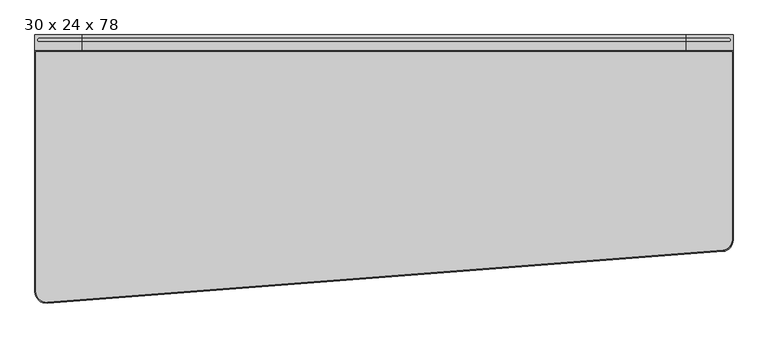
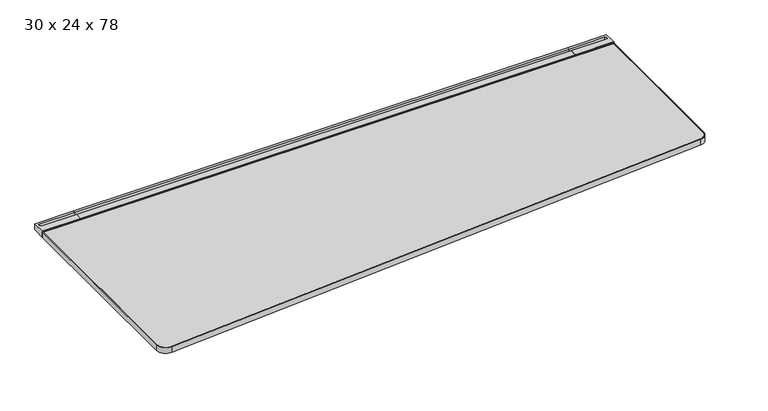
"""IFC4 building model written with IfcOpenShell, lengths in millimetres: furniture geometry, Steelcase - C Scape - Desking - Left Hand Tapered : 30 x 24 x 78."""

import ifcopenshell
import ifcopenshell.guid

model = None  # the IFC model being written
_history = None  # IfcOwnerHistory: only IFC2X3 demands one
_inside = {}  # id of a spatial element -> (the spatial element, [elements in it])
_under = {}  # id of a project, library or spatial element -> (it, [spatial elements below it])
_declared = {}  # id of a project -> (the project, [libraries it declares])
_typed = {}  # id of a type object -> (the type object, [elements of that type])
_made_of = {}  # id of a material, layer set ... -> (it, [elements and type objects made of it])


def new_model(schema):
    """Start an empty IFC model of exactly this schema.

    Asked for "IFC4X3", IfcOpenShell would pick the latest addendum, in which some entities
    have other attributes; the version numbers below select the first issue.
    IFC2X3 requires an IfcOwnerHistory on every rooted entity: one is made here for all.
    """
    global model, _history
    if schema == "IFC4X3":
        model = ifcopenshell.file(schema_version=(4, 3, 0, 0))
    else:
        model = ifcopenshell.file(schema=schema)
    _inside.clear()
    _under.clear()
    _declared.clear()
    _typed.clear()
    _made_of.clear()
    _history = None
    if model.schema == "IFC2X3":
        org = make("IfcOrganization", Name="unknown")
        user = make(
            "IfcPersonAndOrganization",
            ThePerson=make("IfcPerson", FamilyName="unknown"),
            TheOrganization=org,
        )
        app = make(
            "IfcApplication",
            ApplicationDeveloper=org,
            Version="unknown",
            ApplicationFullName="unknown",
            ApplicationIdentifier="unknown",
        )
        _history = make(
            "IfcOwnerHistory",
            OwningUser=user,
            OwningApplication=app,
            ChangeAction="ADDED",
            CreationDate=0,
        )
    return model


def make(cls, **values):
    """One entity of the class cls with the attributes given. An attribute that is None is left unset."""
    return model.create_entity(
        cls, **{name: value for name, value in values.items() if value is not None}
    )


def rooted(cls, **values):
    """An entity with a GlobalId (a new one), such as an element, a storey or a relation."""
    return make(cls, GlobalId=ifcopenshell.guid.new(), OwnerHistory=_history, **values)


def si_unit(unit_type, name, prefix=None):
    """IfcSIUnit, for example si_unit("LENGTHUNIT", "METRE", prefix="MILLI")."""
    return make("IfcSIUnit", UnitType=unit_type, Prefix=prefix, Name=name)


def assignment(units):
    """IfcUnitAssignment: the units of a project."""
    return None if units is None else make("IfcUnitAssignment", Units=units)


def point(xyz):
    """IfcCartesianPoint."""
    return None if xyz is None else make("IfcCartesianPoint", Coordinates=xyz)


def direction(xyz):
    """IfcDirection."""
    return None if xyz is None else make("IfcDirection", DirectionRatios=xyz)


def frame(location, z_axis=None, x_axis=None):
    """IfcAxis2Placement3D, a coordinate frame: its origin and axes. An axis left out is left unset."""
    return make(
        "IfcAxis2Placement3D",
        Location=point(location),
        Axis=direction(z_axis),
        RefDirection=direction(x_axis),
    )


def frame_2d(location, x_axis=None):
    """IfcAxis2Placement2D, a coordinate frame in the plane: its origin and x axis."""
    return make(
        "IfcAxis2Placement2D", Location=point(location), RefDirection=direction(x_axis)
    )


def origin():
    """The frame at (0, 0, 0) with its axes left unset."""
    return frame((0.0, 0.0, 0.0))


def place(relative_to, where):
    """IfcLocalPlacement: puts the frame where relative to a parent placement (None: the world)."""
    return make(
        "IfcLocalPlacement", PlacementRelTo=relative_to, RelativePlacement=where
    )


def context(
    kind, dimensions, precision=None, world=None, true_north=None, identifier=None
):
    """IfcGeometricRepresentationContext, for example the 3D "Model" context."""
    return make(
        "IfcGeometricRepresentationContext",
        ContextIdentifier=identifier,
        ContextType=kind,
        CoordinateSpaceDimension=dimensions,
        Precision=precision,
        WorldCoordinateSystem=world,
        TrueNorth=true_north,
    )


def project(units=None, contexts=None):
    """IfcProject with its units and contexts."""
    return rooted(
        "IfcProject",
        Name="project",
        RepresentationContexts=contexts,
        UnitsInContext=assignment(units),
    )


def spatial(cls, under=None, at=None, **own):
    """A site, building, storey or space (cls), placed at a placement, below another one or the project."""
    s = rooted(cls, ObjectPlacement=at, **own)
    if under is not None:
        _under.setdefault(under.id(), (under, []))[1].append(s)
    return s


def polyline(points):
    """IfcPolyline through the points."""
    return make("IfcPolyline", Points=[point(p) for p in points])


def circle_curve(where, radius):
    """IfcCircle in the frame where."""
    return make("IfcCircle", Position=where, Radius=radius)


def trimmed(basis, trim1, trim2, sense, master):
    """IfcTrimmedCurve: the piece of a basis curve between two trims."""
    return make(
        "IfcTrimmedCurve",
        BasisCurve=basis,
        Trim1=trim1,
        Trim2=trim2,
        SenseAgreement=sense,
        MasterRepresentation=master,
    )


def segment(curve, same_sense, transition):
    """IfcCompositeCurveSegment."""
    return make(
        "IfcCompositeCurveSegment",
        Transition=transition,
        SameSense=same_sense,
        ParentCurve=curve,
    )


def composite_curve(segments, self_intersect=None):
    """IfcCompositeCurve: segments joined end to end."""
    return make("IfcCompositeCurve", Segments=segments, SelfIntersect=self_intersect)


def outline(outer, holes=None, kind="AREA"):
    """IfcArbitraryClosedProfileDef: a profile drawn as a closed curve; with holes, ...WithVoids."""
    if holes is None:
        return make("IfcArbitraryClosedProfileDef", ProfileType=kind, OuterCurve=outer)
    return make(
        "IfcArbitraryProfileDefWithVoids",
        ProfileType=kind,
        OuterCurve=outer,
        InnerCurves=holes,
    )


def extrude(swept, where, along, depth):
    """IfcExtrudedAreaSolid: the profile swept, set in the frame where, extruded along a direction by depth."""
    return make(
        "IfcExtrudedAreaSolid",
        SweptArea=swept,
        Position=where,
        ExtrudedDirection=direction(along),
        Depth=depth,
    )


def faces_of(points, faces, orient=None, outer=None):
    """IfcFace entities. A face is a list of loops; a loop is a list of indices into points, from 0.

    orient and outer hold one flag for each loop. By default every Orientation is true, the
    first loop of a face is its IfcFaceOuterBound and the others are IfcFaceBound.
    """
    made = []
    for i, loops in enumerate(faces):
        bounds = []
        for j, loop in enumerate(loops):
            is_outer = j == 0 if outer is None else outer[i][j]
            bounds.append(
                make(
                    "IfcFaceOuterBound" if is_outer else "IfcFaceBound",
                    Bound=make("IfcPolyLoop", Polygon=[points[k] for k in loop]),
                    Orientation=True if orient is None else orient[i][j],
                )
            )
        made.append(make("IfcFace", Bounds=bounds))
    return made


def faceted_brep(points, faces, orient=None, outer=None, voids=None):
    """IfcFacetedBrep: a solid bounded by flat faces; with voids (closed shells), ...WithVoids."""
    shared = [point(p) for p in points]
    hull = make("IfcClosedShell", CfsFaces=faces_of(shared, faces, orient, outer))
    if voids is None:
        return make("IfcFacetedBrep", Outer=hull)
    return make(
        "IfcFacetedBrepWithVoids",
        Outer=hull,
        Voids=[
            make(cls, CfsFaces=faces_of(shared, fs, o, b)) for cls, fs, o, b in voids
        ],
    )


def shape(context_of_items, identifier, shape_type, items):
    """IfcShapeRepresentation: the items that make up one representation, for example the "Body"."""
    return make(
        "IfcShapeRepresentation",
        ContextOfItems=context_of_items,
        RepresentationIdentifier=identifier,
        RepresentationType=shape_type,
        Items=items,
    )


def source(mapping_origin, context_of_items, identifier, shape_type, items):
    """IfcRepresentationMap: a shape defined once, which mapped items show again and again."""
    return make(
        "IfcRepresentationMap",
        MappingOrigin=mapping_origin,
        MappedRepresentation=shape(context_of_items, identifier, shape_type, items),
    )


def transform(
    local_origin,
    x_axis=None,
    y_axis=None,
    z_axis=None,
    scale=None,
    scale2=None,
    scale3=None,
    uniform=True,
):
    """IfcCartesianTransformationOperator3D, or its non-uniform kind. x_axis, y_axis, z_axis: its Axis1, 2, 3."""
    if uniform:
        return make(
            "IfcCartesianTransformationOperator3D",
            Axis1=direction(x_axis),
            Axis2=direction(y_axis),
            LocalOrigin=point(local_origin),
            Scale=scale,
            Axis3=direction(z_axis),
        )
    return make(
        "IfcCartesianTransformationOperator3DnonUniform",
        Axis1=direction(x_axis),
        Axis2=direction(y_axis),
        LocalOrigin=point(local_origin),
        Scale=scale,
        Axis3=direction(z_axis),
        Scale2=scale2,
        Scale3=scale3,
    )


def mapped(mapping_source, mapping_target):
    """IfcMappedItem: shows the shape of a source again, moved by a transform."""
    return make(
        "IfcMappedItem", MappingSource=mapping_source, MappingTarget=mapping_target
    )


def made_of(thing, what):
    """Note that an element or type object is made of a material, layer set ...; save() writes the relation."""
    if what is not None:
        _made_of.setdefault(what.id(), (what, []))[1].append(thing)
    return thing


def element(
    cls,
    number,
    at=None,
    inside=None,
    cuts=None,
    type_object=None,
    material=None,
    context=None,
    identifier="Body",
    shape_type=None,
    held_by="IfcProductDefinitionShape",
    body=None,
    shapes=None,
    **own,
):
    """One element of the class cls, such as IfcWall. Its Tag is "e" and its number.

    at: its placement. inside: the storey or other place that contains it. cuts: it is an
    opening in that element (IfcRelVoidsElement). A single representation is given by context,
    identifier, shape_type and body (its items); several are given by shapes. held_by: the class
    of the entity that holds the representations. save() writes the other relations.
    """
    e = rooted(cls, Tag="e%d" % number, ObjectPlacement=at, **own)
    if body is not None:
        shapes = [shape(context, identifier, shape_type, body)]
    if shapes is not None:
        e.Representation = make(held_by, Representations=shapes)
    if inside is not None:
        _inside.setdefault(inside.id(), (inside, []))[1].append(e)
    if cuts is not None:
        rooted(
            "IfcRelVoidsElement", RelatingBuildingElement=cuts, RelatedOpeningElement=e
        )
    if type_object is not None:
        _typed.setdefault(type_object.id(), (type_object, []))[1].append(e)
    return made_of(e, material)


def aggregate(whole, parts):
    """IfcRelAggregates: a whole, such as a stair, and the parts it consists of."""
    return rooted("IfcRelAggregates", RelatingObject=whole, RelatedObjects=parts)


def save(model, path):
    """Write the relations noted so far, then the file.

    IfcRelAggregates (storeys below a building ...), IfcRelContainedInSpatialStructure (elements
    in a storey), IfcRelDefinesByType, IfcRelAssociatesMaterial and IfcRelDeclares: one each for
    every whole, place, type object, material and project.
    """
    for whole, parts in _under.values():
        aggregate(whole, parts)
    for where, things in _inside.values():
        rooted(
            "IfcRelContainedInSpatialStructure",
            RelatedElements=things,
            RelatingStructure=where,
        )
    for kind, things in _typed.values():
        rooted("IfcRelDefinesByType", RelatedObjects=things, RelatingType=kind)
    for what, things in _made_of.values():
        rooted("IfcRelAssociatesMaterial", RelatedObjects=things, RelatingMaterial=what)
    for by, libraries in _declared.values():
        rooted("IfcRelDeclares", RelatingContext=by, RelatedDefinitions=libraries)
    model.write(path)


def plane_surface(at):
    """IfcPlane: the flat surface through the origin of the frame at, square to its z axis."""
    return make("IfcPlane", Position=at)


def cylinder_surface(at, radius):
    """IfcCylindricalSurface: all points at the distance radius from the z axis of the frame at."""
    return make("IfcCylindricalSurface", Position=at, Radius=radius)


def revolved_surface(curve, axis_point, axis_direction):
    """IfcSurfaceOfRevolution: the curve turned about the line through axis_point along axis_direction."""
    return make(
        "IfcSurfaceOfRevolution",
        SweptCurve=make("IfcArbitraryOpenProfileDef", ProfileType="CURVE", Curve=curve),
        AxisPosition=make("IfcAxis1Placement", Location=point(axis_point), Axis=direction(axis_direction)),
    )


def advanced_brep(points, edges, surfaces, faces):
    """IfcAdvancedBrep: a solid bounded by faces that lie on surfaces and meet in shared edges.

    An edge is (start, end): straight between two places in points (the first is 0);
    or (start, end, curve); or (start, end, curve, False) where it runs against its curve.
    A face is (place in surfaces, loops), or (place, loops, False) where it looks against
    its surface's normal. A loop lists edges by number (the first is 1), with a minus sign
    where the edge is run from its end to its start. The first loop is the outer one.
    """
    corners = [point(p) for p in points]
    vertices = [make("IfcVertexPoint", VertexGeometry=c) for c in corners]
    made = []
    for start, end, *more in edges:
        made.append(
            make(
                "IfcEdgeCurve",
                EdgeStart=vertices[start],
                EdgeEnd=vertices[end],
                EdgeGeometry=more[0] if more else make("IfcPolyline", Points=[corners[start], corners[end]]),
                SameSense=more[1] if len(more) > 1 else True,
            )
        )
    hull = []
    for where, loops, *sense in faces:
        bounds = []
        for j, loop in enumerate(loops):
            ring = [make("IfcOrientedEdge", EdgeElement=made[abs(k) - 1], Orientation=k > 0) for k in loop]
            bounds.append(
                make(
                    "IfcFaceOuterBound" if j == 0 else "IfcFaceBound",
                    Bound=make("IfcEdgeLoop", EdgeList=ring),
                    Orientation=True,
                )
            )
        hull.append(make("IfcAdvancedFace", Bounds=bounds, FaceSurface=surfaces[where], SameSense=sense[0] if sense else True))
    return make("IfcAdvancedBrep", Outer=make("IfcClosedShell", CfsFaces=hull))


def furniture_30_x_24_x_78_2d4ab718(model_context):
    return source(origin(), model_context, "Body", "SolidModel", [
        advanced_brep(
        [(134.6072876, -45.3135132, 703.3768), (134.6072876, -4.0331902, 703.3768), (134.6072876, -3.2278472, 705.1038636), (134.6072876, 0.0, 705.1038636), (134.6072876, 0.0, 725.932), (134.6072876, -8.5111084, 725.932), (134.6072876, -8.5111084, 713.486), (134.6072876, -19.3290527, 713.486), (134.6072876, -19.3290527, 725.932), (134.6072876, -42.7750923, 725.932), (134.6072876, -42.7750923, 722.4268341), (134.6072876, -45.3135132, 722.4268341), (1.5875, -45.3135132, 703.3768), (1.5875, -45.3135132, 722.4268341), (1.5875, -42.7750923, 722.4268341), (1.5875, -42.7750923, 725.932), (1.5875, 0.0, 725.932), (1.5875, 0.0, 705.1038636), (1.5875, -3.2278472, 705.1038636), (1.5875, -4.0331902, 703.3768), (13.3495728, -19.3290527, 725.932), (13.3495728, -8.5111084, 725.932), (13.3495728, -8.5111084, 713.486), (13.3495728, -19.3290527, 713.486)],
        [
            (0, 1),
            (1, 2),
            (2, 3),
            (3, 4),
            (4, 5),
            (5, 6),
            (6, 7),
            (7, 8),
            (8, 9),
            (9, 10),
            (10, 11),
            (11, 0),
            (12, 13),
            (13, 14),
            (14, 15),
            (15, 16),
            (16, 17),
            (17, 18),
            (18, 19),
            (19, 12),
            (0, 12),
            (19, 1),
            (18, 2),
            (17, 3),
            (16, 4),
            (15, 9),
            (8, 20),
            (20, 21, circle_curve(frame((13.3495728, -13.9200806, 725.932), z_axis=(0.0, 0.0, -1.0), x_axis=(1.0, 0.0, 0.0)), 5.4089722)),
            (21, 5),
            (14, 10),
            (13, 11),
            (6, 22),
            (22, 23, circle_curve(frame((13.3495728, -13.9200806, 713.486), z_axis=(0.0, 0.0, 1.0), x_axis=(1.0, 0.0, 0.0)), 5.4089722)),
            (23, 7),
            (21, 22),
            (20, 23),
        ],
        [
            plane_surface(frame((134.6072876, -45.3135132, 703.3768), z_axis=(1.0, 0.0, 0.0), x_axis=(0.0, 1.0, 0.0))),
            plane_surface(frame((1.5875, -45.3135132, 703.3768), z_axis=(-1.0, 0.0, 0.0), x_axis=(0.0, -1.0, 0.0))),
            plane_surface(frame((134.6072876, -45.3135132, 703.3768), z_axis=(0.0, 0.0, -1.0), x_axis=(-1.0, 0.0, 0.0))),
            plane_surface(frame((134.6072876, -4.0331902, 703.3768), z_axis=(0.0, 0.9063077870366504, -0.4226182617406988), x_axis=(-1.0, 0.0, 0.0))),
            plane_surface(frame((134.6072876, -3.2278472, 705.1038636), z_axis=(0.0, 0.0, -1.0), x_axis=(-1.0, 0.0, 0.0))),
            plane_surface(frame((134.6072876, 0.0, 705.1038636), z_axis=(0.0, 1.0, 0.0), x_axis=(-1.0, 0.0, 0.0))),
            plane_surface(frame((134.6072876, 0.0, 725.932), z_axis=(0.0, 0.0, 1.0), x_axis=(-1.0, 0.0, 0.0))),
            plane_surface(frame((134.6072876, -42.7750923, 725.932), z_axis=(0.0, -1.0, 0.0), x_axis=(-1.0, 0.0, 0.0))),
            plane_surface(frame((134.6072876, -42.7750923, 722.4268341), z_axis=(0.0, 0.0, 1.0), x_axis=(-1.0, 0.0, 0.0))),
            plane_surface(frame((134.6072876, -45.3135132, 722.4268341), z_axis=(0.0, -1.0, 0.0), x_axis=(-1.0, 0.0, 0.0))),
            plane_surface(frame((13.3495728, -8.5111084, 713.486), z_axis=(0.0, 0.0, 1.0), x_axis=(1.0, 0.0, 0.0))),
            plane_surface(frame((134.6072876, -8.5111084, 731.2180541), z_axis=(0.0, -1.0, 0.0), x_axis=(0.0, 0.0, -1.0))),
            revolved_surface(polyline([(18.758545, -13.9200806, 725.932), (18.758545, -13.9200806, 713.486)]), (13.3495728, -13.9200806, 713.486), (0.0, 0.0, 1.0)),
            plane_surface(frame((13.3495728, -19.3290527, 731.2180541), z_axis=(0.0, 1.0, 0.0), x_axis=(0.0, 0.0, -1.0))),
        ],
        [
            (0, [[1, 2, 3, 4, 5, 6, 7, 8, 9, 10, 11, 12]]),
            (1, [[13, 14, 15, 16, 17, 18, 19, 20]]),
            (2, [[-1, 21, -20, 22]]),
            (3, [[-2, -22, -19, 23]]),
            (4, [[-3, -23, -18, 24]]),
            (5, [[-4, -24, -17, 25]]),
            (6, [[-16, 26, -9, 27, 28, 29, -5, -25]]),
            (7, [[-10, -26, -15, 30]]),
            (8, [[-11, -30, -14, 31]]),
            (9, [[-12, -31, -13, -21]]),
            (10, [[32, 33, 34, -7]]),
            (11, [[-32, -6, -29, 35]]),
            (12, [[-33, -35, -28, 36]]),
            (13, [[-34, -36, -27, -8]]),
        ],
    ),
        faceted_brep([(20.6382632, -565.0752923, 700.7093833), (34.9133728, -565.0752923, 693.4200291), (116.3525879, -565.0752923, 693.4200291), (118.9731301, -565.0752923, 679.3263935), (134.6072876, -565.0752923, 679.3263935), (134.6072876, -565.0752923, 703.3768), (20.6382632, -565.0752923, 703.3768), (20.6382632, -4.0331902, 700.7093833), (20.6382632, -4.0331902, 703.3768), (134.6072876, -4.0331902, 703.3768), (134.6072876, -4.0331902, 629.3866), (128.2588347, -4.0331902, 629.3866), (116.3525879, -4.0331902, 693.4200291), (34.9133728, -4.0331902, 693.4200291), (128.2588347, -364.1172546, 629.3866), (121.1384051, -376.5599397, 667.6812472), (134.6072876, -364.1172546, 629.3866), (134.6072876, -376.5599397, 667.6812472)], [[[0, 1, 2, 3, 4, 5, 6]], [[7, 8, 9, 10, 11, 12, 13]], [[1, 0, 7, 13]], [[2, 1, 13, 12]], [[12, 11, 14, 15, 3, 2]], [[11, 10, 16, 14]], [[10, 9, 5, 4, 17, 16]], [[6, 5, 9, 8]], [[0, 6, 8, 7]], [[15, 17, 4, 3]], [[17, 15, 14, 16]]]),
        extrude(outline(composite_curve([segment(polyline([(-293.5216187, 657.3775839), (-559.0022133, 680.1371551)]), True, "CONTINUOUS"), segment(trimmed(circle_curve(frame_2d((-558.7581271, 682.9843154)), 2.8576039), [point((-559.0022133, 680.1371551))], [point((-561.5383043, 682.3236226))], False, "CARTESIAN"), True, "CONTINUOUS"), segment(polyline([(-561.5383043, 682.3236226), (-566.0887542, 701.4717905), (-557.8334441, 701.4717905), (-557.8334441, 703.3768), (-442.6683806, 703.3768), (-442.6683806, 696.3917953), (-318.2108611, 696.3917953), (-318.2108611, 703.3768), (-293.5216187, 703.3768), (-293.5216187, 657.3775839)]), True, "CONTINUOUS")], self_intersect=False)), frame((954.024, 0.0, 0.0), z_axis=(1.0, 0.0, 0.0), x_axis=(0.0, 1.0, 0.0)), (0.0, 0.0, 1.0), 73.152),
        advanced_brep(
        [(1846.5927124, -45.3135132, 703.3768), (1846.5927124, -45.3135132, 722.4268341), (1846.5927124, -42.7750923, 722.4268341), (1846.5927124, -42.7750923, 725.932), (1846.5927124, -19.3290527, 725.932), (1846.5927124, -19.3290527, 713.486), (1846.5927124, -8.5111084, 713.486), (1846.5927124, -8.5111084, 725.932), (1846.5927124, 0.0, 725.932), (1846.5927124, 0.0, 705.1038636), (1846.5927124, -3.2278472, 705.1038636), (1846.5927124, -4.0331902, 703.3768), (1979.6125, -45.3135132, 703.3768), (1979.6125, -4.0331902, 703.3768), (1979.6125, -3.2278472, 705.1038636), (1979.6125, 0.0, 705.1038636), (1979.6125, 0.0, 725.932), (1979.6125, -42.7750923, 725.932), (1979.6125, -42.7750923, 722.4268341), (1979.6125, -45.3135132, 722.4268341), (1967.8504272, -8.5111084, 725.932), (1967.8504272, -19.3290527, 725.932), (1967.8504272, -19.3290527, 713.486), (1967.8504272, -8.5111084, 713.486)],
        [
            (0, 1),
            (1, 2),
            (2, 3),
            (3, 4),
            (4, 5),
            (5, 6),
            (6, 7),
            (7, 8),
            (8, 9),
            (9, 10),
            (10, 11),
            (11, 0),
            (12, 13),
            (13, 14),
            (14, 15),
            (15, 16),
            (16, 17),
            (17, 18),
            (18, 19),
            (19, 12),
            (11, 13),
            (12, 0),
            (10, 14),
            (9, 15),
            (8, 16),
            (7, 20),
            (20, 21, circle_curve(frame((1967.8504272, -13.9200806, 725.932), z_axis=(0.0, 0.0, -1.0), x_axis=(-1.0, 0.0, 0.0)), 5.4089722)),
            (21, 4),
            (3, 17),
            (2, 18),
            (1, 19),
            (5, 22),
            (22, 23, circle_curve(frame((1967.8504272, -13.9200806, 713.486), z_axis=(0.0, 0.0, 1.0), x_axis=(-1.0, 0.0, 0.0)), 5.4089722)),
            (23, 6),
            (23, 20),
            (22, 21),
        ],
        [
            plane_surface(frame((1846.5927124, -45.3135132, 703.3768), z_axis=(-1.0, 0.0, 0.0), x_axis=(0.0, 1.0, 0.0))),
            plane_surface(frame((1979.6125, -45.3135132, 703.3768), z_axis=(1.0, 0.0, 0.0), x_axis=(0.0, -1.0, 0.0))),
            plane_surface(frame((1846.5927124, -45.3135132, 703.3768), z_axis=(0.0, 0.0, -1.0), x_axis=(1.0, 0.0, 0.0))),
            plane_surface(frame((1846.5927124, -4.0331902, 703.3768), z_axis=(0.0, 0.9063077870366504, -0.4226182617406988), x_axis=(1.0, 0.0, 0.0))),
            plane_surface(frame((1846.5927124, -3.2278472, 705.1038636), z_axis=(0.0, 0.0, -1.0), x_axis=(1.0, 0.0, 0.0))),
            plane_surface(frame((1846.5927124, 0.0, 705.1038636), z_axis=(0.0, 1.0, 0.0), x_axis=(1.0, 0.0, 0.0))),
            plane_surface(frame((1846.5927124, 0.0, 725.932), z_axis=(0.0, 0.0, 1.0), x_axis=(1.0, 0.0, 0.0))),
            plane_surface(frame((1846.5927124, -42.7750923, 725.932), z_axis=(0.0, -1.0, 0.0), x_axis=(1.0, 0.0, 0.0))),
            plane_surface(frame((1846.5927124, -42.7750923, 722.4268341), z_axis=(0.0, 0.0, 1.0), x_axis=(1.0, 0.0, 0.0))),
            plane_surface(frame((1846.5927124, -45.3135132, 722.4268341), z_axis=(0.0, -1.0, 0.0), x_axis=(1.0, 0.0, 0.0))),
            plane_surface(frame((1967.8504272, -8.5111084, 713.486), z_axis=(0.0, 0.0, 1.0), x_axis=(-1.0, 0.0, 0.0))),
            plane_surface(frame((1846.5927124, -8.5111084, 731.2180541), z_axis=(0.0, -1.0, 0.0), x_axis=(0.0, 0.0, -1.0))),
            revolved_surface(polyline([(1962.441455, -13.9200806, 725.932), (1962.441455, -13.9200806, 713.486)]), (1967.8504272, -13.9200806, 713.486), (0.0, 0.0, 1.0)),
            plane_surface(frame((1967.8504272, -19.3290527, 731.2180541), z_axis=(0.0, 1.0, 0.0), x_axis=(0.0, 0.0, -1.0))),
        ],
        [
            (0, [[1, 2, 3, 4, 5, 6, 7, 8, 9, 10, 11, 12]]),
            (1, [[13, 14, 15, 16, 17, 18, 19, 20]]),
            (2, [[21, -13, 22, -12]]),
            (3, [[23, -14, -21, -11]]),
            (4, [[24, -15, -23, -10]]),
            (5, [[25, -16, -24, -9]]),
            (6, [[-25, -8, 26, 27, 28, -4, 29, -17]]),
            (7, [[30, -18, -29, -3]]),
            (8, [[31, -19, -30, -2]]),
            (9, [[-22, -20, -31, -1]]),
            (10, [[-6, 32, 33, 34]]),
            (11, [[35, -26, -7, -34]]),
            (12, [[36, -27, -35, -33]]),
            (13, [[-5, -28, -36, -32]]),
        ],
    ),
        faceted_brep([(1960.5617368, -565.0752923, 700.7093833), (1960.5617368, -565.0752923, 703.3768), (1846.5927124, -565.0752923, 703.3768), (1846.5927124, -565.0752923, 679.3263935), (1862.2268699, -565.0752923, 679.3263935), (1864.8474121, -565.0752923, 693.4200291), (1946.2866272, -565.0752923, 693.4200291), (1960.5617368, -4.0331902, 700.7093833), (1946.2866272, -4.0331902, 693.4200291), (1864.8474121, -4.0331902, 693.4200291), (1852.9411653, -4.0331902, 629.3866), (1846.5927124, -4.0331902, 629.3866), (1846.5927124, -4.0331902, 703.3768), (1960.5617368, -4.0331902, 703.3768), (1860.0615949, -376.5599397, 667.6812472), (1852.9411653, -364.1172546, 629.3866), (1846.5927124, -364.1172546, 629.3866), (1846.5927124, -376.5599397, 667.6812472)], [[[0, 1, 2, 3, 4, 5, 6]], [[7, 8, 9, 10, 11, 12, 13]], [[6, 8, 7, 0]], [[5, 9, 8, 6]], [[9, 5, 4, 14, 15, 10]], [[10, 15, 16, 11]], [[11, 16, 17, 3, 2, 12]], [[1, 13, 12, 2]], [[0, 7, 13, 1]], [[14, 4, 3, 17]], [[17, 16, 15, 14]]]),
        extrude(outline(polyline([(-8.5111084, 725.932), (0.0, 725.932), (0.0, 705.1038636), (-3.2278472, 705.1038636), (-4.0331902, 703.3768), (-45.3135132, 703.3768), (-45.3135132, 722.4268341), (-42.7750923, 722.4268341), (-42.7750923, 725.932), (-19.3290527, 725.932), (-19.3290527, 713.486), (-8.5111084, 713.486), (-8.5111084, 725.932)])), frame((134.6072876, 0.0, 0.0), z_axis=(1.0, 0.0, 0.0), x_axis=(0.0, 1.0, 0.0)), (0.0, 0.0, 1.0), 1711.9854248),
        extrude(outline(polyline([(1846.5927124, -4.0331902), (1846.5927124, -293.5216187), (134.6072876, -293.5216187), (134.6072876, -4.0331902), (1846.5927124, -4.0331902)])), frame((0.0, 0.0, 629.3866), z_axis=(0.0, 0.0, 1.0), x_axis=(1.0, 0.0, 0.0)), (0.0, 0.0, 1.0), 73.9902),
        extrude(outline(composite_curve([segment(polyline([(1976.5645, -48.3660689), (1976.5645, -581.0845942)]), True, "CONTINUOUS"), segment(trimmed(circle_curve(frame_2d((1947.259299, -581.0845942)), 29.305201), [point((1976.5645, -581.0845942))], [point((1950.1931119, -610.2425699))], False, "CARTESIAN"), True, "CONTINUOUS"), segment(polyline([(1950.1931119, -610.2425699), (36.8381677, -756.7577516)]), True, "CONTINUOUS"), segment(trimmed(circle_curve(frame_2d((33.9076624, -727.6326485)), 29.2721624), [point((36.8381677, -756.7577516))], [point((4.6355, -727.6326485))], False, "CARTESIAN"), True, "CONTINUOUS"), segment(polyline([(4.6355, -727.6326485), (4.6355, -48.3660689), (1976.5645, -48.3660689)]), True, "CONTINUOUS")], self_intersect=False)), frame((0.0, 0.0, 703.3768), z_axis=(0.0, 0.0, 1.0), x_axis=(1.0, 0.0, 0.0)), (0.0, 0.0, 1.0), 20.5232),
        advanced_brep(
        [(4.6384766, -48.3660689, 703.3768), (4.6384766, -48.3660689, 723.9), (4.6384766, -727.9545671, 723.9), (4.6384766, -727.9545671, 703.3768), (1.5875, -45.3150923, 723.9), (1.5875, -45.3150923, 703.3768), (1.5875, -727.9545671, 703.3768), (1.5875, -727.9545671, 723.9), (36.1990786, -756.5105703, 703.3768), (36.1990786, -756.5105703, 723.9), (36.5032914, -759.5463424, 723.9), (36.5032914, -759.5463424, 703.3768), (1950.7962408, -610.4666056, 723.9), (1950.7962408, -610.4666056, 703.3768), (1951.0282914, -613.5087448, 703.3768), (1951.0282914, -613.5087448, 723.9), (1976.5615234, -581.9169695, 703.3768), (1976.5615234, -581.9169695, 723.9), (1979.6125, -581.9169695, 703.3768), (1979.6125, -45.3150923, 703.3768), (1976.5615234, -48.3660689, 703.3768), (1979.6125, -581.9169695, 723.9), (1979.6125, -45.3150923, 723.9), (1976.5615234, -48.3660689, 723.9)],
        [
            (0, 1),
            (1, 2),
            (2, 3),
            (3, 0),
            (4, 5),
            (5, 6),
            (6, 7),
            (7, 4),
            (8, 3, circle_curve(frame((33.3375, -727.9545671, 703.3768), z_axis=(0.0, 0.0, -1.0), x_axis=(-1.0, 0.0, 0.0)), 28.6990234)),
            (2, 9, circle_curve(frame((33.3375, -727.9545671, 723.9), z_axis=(0.0, 0.0, 1.0), x_axis=(-1.0, 0.0, 0.0)), 28.6990234)),
            (9, 8),
            (10, 7, circle_curve(frame((33.3375, -727.9545671, 723.9), z_axis=(0.0, 0.0, -1.0), x_axis=(-1.0, 0.0, 0.0)), 31.75)),
            (6, 11, circle_curve(frame((33.3375, -727.9545671, 703.3768), z_axis=(0.0, 0.0, 1.0), x_axis=(-1.0, 0.0, 0.0)), 31.75)),
            (11, 10),
            (9, 12),
            (12, 13),
            (13, 8),
            (11, 14),
            (14, 15),
            (15, 10),
            (16, 13, circle_curve(frame((1947.8625, -581.9169695, 703.3768), z_axis=(0.0, 0.0, -1.0), x_axis=(0.09970996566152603, -0.9950165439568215, 0.0)), 28.6990234)),
            (12, 17, circle_curve(frame((1947.8625, -581.9169695, 723.9), z_axis=(0.0, 0.0, 1.0), x_axis=(0.09970996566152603, -0.9950165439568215, 0.0)), 28.6990234)),
            (17, 16),
            (18, 14, circle_curve(frame((1947.8625, -581.9169695, 703.3768), z_axis=(0.0, 0.0, -1.0), x_axis=(0.09970996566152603, -0.9950165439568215, 0.0)), 31.75)),
            (5, 19),
            (19, 18),
            (16, 20),
            (20, 0),
            (21, 15, circle_curve(frame((1947.8625, -581.9169695, 723.9), z_axis=(0.0, 0.0, -1.0), x_axis=(0.09970996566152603, -0.9950165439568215, 0.0)), 31.75)),
            (18, 21),
            (21, 22),
            (22, 4),
            (1, 23),
            (23, 17),
            (23, 20),
            (19, 22),
        ],
        [
            plane_surface(frame((4.6384766, -48.3660689, 723.9), z_axis=(1.0, 0.0, 0.0), x_axis=(0.0, -1.0, 0.0))),
            plane_surface(frame((1.5875, -45.3150923, 703.3768), z_axis=(-1.0, 0.0, 0.0), x_axis=(0.0, -1.0, 0.0))),
            revolved_surface(polyline([(4.638476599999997, -727.9545671, 723.9), (4.638476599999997, -727.9545671, 703.3768)]), (33.3375, -727.9545671, 0.0), (0.0, 0.0, 1.0)),
            cylinder_surface(frame((33.3375, -727.9545671, 0.0), z_axis=(0.0, 0.0, 1.0), x_axis=(-1.0, 0.0, 0.0)), 31.75),
            plane_surface(frame((36.1989929, -756.5097143, 723.9), z_axis=(-0.07605781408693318, 0.9971034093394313, 0.0), x_axis=(0.9971034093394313, 0.07605781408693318, 0.0))),
            plane_surface(frame((36.5032914, -759.5463424, 703.3768), z_axis=(0.07605781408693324, -0.9971034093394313, 0.0), x_axis=(0.9971034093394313, 0.07605781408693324, 0.0))),
            revolved_surface(polyline([(1950.7240786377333, -610.472972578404, 723.9), (1950.7240786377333, -610.472972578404, 703.3768)]), (1947.8625, -581.9169695, 0.0), (0.0, 0.0, 1.0)),
            plane_surface(frame((1947.8625, -581.9169695, 703.3768), z_axis=(0.0, 0.0, -1.0), x_axis=(0.09970996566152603, -0.9950165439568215, 0.0))),
            cylinder_surface(frame((1947.8625, -581.9169695, 0.0), z_axis=(0.0, 0.0, 1.0), x_axis=(0.09970996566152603, -0.9950165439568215, 0.0)), 31.75),
            plane_surface(frame((1947.8625, -581.9169695, 723.9), z_axis=(0.0, 0.0, 1.0), x_axis=(0.09970996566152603, -0.9950165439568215, 0.0))),
            plane_surface(frame((1976.5615234, -581.9169695, 723.9), z_axis=(-1.0, 0.0, 0.0), x_axis=(0.0, 1.0, 0.0))),
            plane_surface(frame((1979.6125, -581.9169695, 703.3768), z_axis=(1.0, 0.0, 0.0), x_axis=(0.0, 1.0, 0.0))),
            plane_surface(frame((1976.5615234, -48.3660689, 723.9), z_axis=(0.0, -1.0, 0.0), x_axis=(-1.0, 0.0, 0.0))),
            plane_surface(frame((1979.6125, -45.3150923, 703.3768), z_axis=(0.0, 1.0, 0.0), x_axis=(-1.0, 0.0, 0.0))),
        ],
        [
            (0, [[1, 2, 3, 4]]),
            (1, [[5, 6, 7, 8]]),
            (2, [[9, -3, 10, 11]]),
            (3, [[12, -7, 13, 14]]),
            (4, [[-11, 15, 16, 17]]),
            (5, [[-14, 18, 19, 20]]),
            (6, [[21, -16, 22, 23]]),
            (7, [[24, -18, -13, -6, 25, 26], [-9, -17, -21, 27, 28, -4]]),
            (8, [[29, -19, -24, 30]]),
            (9, [[-12, -20, -29, 31, 32, -8], [-22, -15, -10, -2, 33, 34]]),
            (10, [[-23, -34, 35, -27]]),
            (11, [[-30, -26, 36, -31]]),
            (12, [[-35, -33, -1, -28]]),
            (13, [[-36, -25, -5, -32]]),
        ],
    ),
    ])


if __name__ == "__main__":
    model = new_model("IFC4")
    model_context = context("Model", 3, world=origin())
    ifc_project = project(units=[si_unit("LENGTHUNIT", "METRE", prefix="MILLI")], contexts=[model_context])
    site = spatial("IfcSite", under=ifc_project)
    building = spatial("IfcBuilding", under=site)
    placement = place(None, origin())
    furniture_30_x_24_x_78_shape = furniture_30_x_24_x_78_2d4ab718(model_context)
    element("IfcFurniture", 1, ObjectType="Steelcase - C Scape - Desking - Left Hand Tapered : 30 x 24 x 78", at=placement, inside=building, context=model_context, shape_type="MappedRepresentation", body=[
        mapped(furniture_30_x_24_x_78_shape, transform((0.0, 0.0, 0.0), x_axis=(1.0, 0.0, 0.0), y_axis=(0.0, 1.0, 0.0), z_axis=(0.0, 0.0, 1.0))),
    ])
    save(model, "model.ifc")
